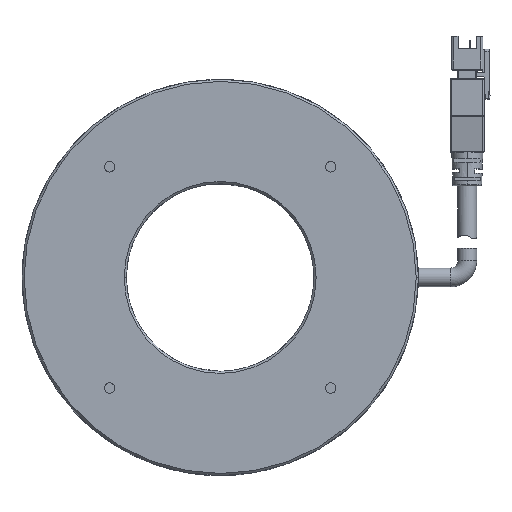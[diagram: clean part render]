
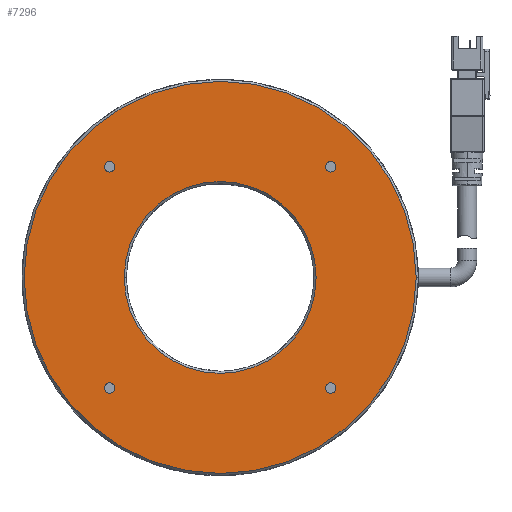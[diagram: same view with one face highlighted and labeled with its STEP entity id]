
A CAD part, top view. The second image highlights one B-rep face of the part: STEP entity #7296.
In plain terms, the highlighted planar face has unit normal (0, 0, 1).
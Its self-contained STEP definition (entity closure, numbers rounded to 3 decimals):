
#1053=CARTESIAN_POINT('',(-26.517,26.517,1.5));
#1054=DIRECTION('',(0.,0.,-1.));
#1055=DIRECTION('',(1.,0.,0.));
#1056=AXIS2_PLACEMENT_3D('',#1053,#1054,#1055);
#1058=CARTESIAN_POINT('',(-26.517,26.517,1.5));
#1059=DIRECTION('',(0.,0.,-1.));
#1060=DIRECTION('',(-1.,0.,0.));
#1061=AXIS2_PLACEMENT_3D('',#1058,#1059,#1060);
#1063=CARTESIAN_POINT('',(26.517,26.517,1.5));
#1064=DIRECTION('',(0.,0.,-1.));
#1065=DIRECTION('',(1.,0.,0.));
#1066=AXIS2_PLACEMENT_3D('',#1063,#1064,#1065);
#1068=CARTESIAN_POINT('',(26.517,26.517,1.5));
#1069=DIRECTION('',(0.,0.,-1.));
#1070=DIRECTION('',(-1.,0.,0.));
#1071=AXIS2_PLACEMENT_3D('',#1068,#1069,#1070);
#1073=CARTESIAN_POINT('',(-26.517,-26.517,1.5));
#1074=DIRECTION('',(0.,0.,-1.));
#1075=DIRECTION('',(1.,0.,0.));
#1076=AXIS2_PLACEMENT_3D('',#1073,#1074,#1075);
#1078=CARTESIAN_POINT('',(-26.517,-26.517,1.5));
#1079=DIRECTION('',(0.,0.,-1.));
#1080=DIRECTION('',(-1.,0.,0.));
#1081=AXIS2_PLACEMENT_3D('',#1078,#1079,#1080);
#1083=CARTESIAN_POINT('',(26.517,-26.517,1.5));
#1084=DIRECTION('',(0.,0.,-1.));
#1085=DIRECTION('',(1.,0.,0.));
#1086=AXIS2_PLACEMENT_3D('',#1083,#1084,#1085);
#1088=CARTESIAN_POINT('',(26.517,-26.517,1.5));
#1089=DIRECTION('',(0.,0.,-1.));
#1090=DIRECTION('',(-1.,0.,0.));
#1091=AXIS2_PLACEMENT_3D('',#1088,#1089,#1090);
#1093=CARTESIAN_POINT('',(0.,0.,1.5));
#1094=DIRECTION('',(0.,0.,1.));
#1095=DIRECTION('',(1.,0.,0.));
#1096=AXIS2_PLACEMENT_3D('',#1093,#1094,#1095);
#1098=CARTESIAN_POINT('',(0.,0.,1.5));
#1099=DIRECTION('',(0.,0.,1.));
#1100=DIRECTION('',(-1.,0.,0.));
#1101=AXIS2_PLACEMENT_3D('',#1098,#1099,#1100);
#1103=CARTESIAN_POINT('',(0.,0.,1.5));
#1104=DIRECTION('',(0.,0.,-1.));
#1105=DIRECTION('',(-1.,0.,0.));
#1106=AXIS2_PLACEMENT_3D('',#1103,#1104,#1105);
#1108=CARTESIAN_POINT('',(0.,0.,1.5));
#1109=DIRECTION('',(0.,0.,-1.));
#1110=DIRECTION('',(1.,0.,0.));
#1111=AXIS2_PLACEMENT_3D('',#1108,#1109,#1110);
#5888=CARTESIAN_POINT('',(-25.267,26.517,1.5));
#5889=CARTESIAN_POINT('',(-27.767,26.517,1.5));
#5890=VERTEX_POINT('',#5888);
#5891=VERTEX_POINT('',#5889);
#5892=CARTESIAN_POINT('',(27.767,26.517,1.5));
#5893=CARTESIAN_POINT('',(25.267,26.517,1.5));
#5894=VERTEX_POINT('',#5892);
#5895=VERTEX_POINT('',#5893);
#5896=CARTESIAN_POINT('',(-25.267,-26.517,1.5));
#5897=CARTESIAN_POINT('',(-27.767,-26.517,1.5));
#5898=VERTEX_POINT('',#5896);
#5899=VERTEX_POINT('',#5897);
#5900=CARTESIAN_POINT('',(27.767,-26.517,1.5));
#5901=CARTESIAN_POINT('',(25.267,-26.517,1.5));
#5902=VERTEX_POINT('',#5900);
#5903=VERTEX_POINT('',#5901);
#5964=CARTESIAN_POINT('',(47.,0.,1.5));
#5965=CARTESIAN_POINT('',(-47.,0.,1.5));
#5966=VERTEX_POINT('',#5964);
#5967=VERTEX_POINT('',#5965);
#5972=CARTESIAN_POINT('',(-23.,0.,1.5));
#5973=CARTESIAN_POINT('',(23.,0.,1.5));
#5974=VERTEX_POINT('',#5972);
#5975=VERTEX_POINT('',#5973);
#7256=CARTESIAN_POINT('',(0.,0.,1.5));
#7257=DIRECTION('',(0.,0.,1.));
#7258=DIRECTION('',(1.,0.,0.));
#7259=AXIS2_PLACEMENT_3D('',#7256,#7257,#7258);
#7260=PLANE('',#7259);
#7261=ORIENTED_EDGE('',*,*,#7246,.F.);
#7263=ORIENTED_EDGE('',*,*,#7262,.F.);
#7264=EDGE_LOOP('',(#7261,#7263));
#7265=FACE_OUTER_BOUND('',#7264,.F.);
#7267=ORIENTED_EDGE('',*,*,#7266,.F.);
#7269=ORIENTED_EDGE('',*,*,#7268,.F.);
#7270=EDGE_LOOP('',(#7267,#7269));
#7271=FACE_BOUND('',#7270,.F.);
#7273=ORIENTED_EDGE('',*,*,#7272,.F.);
#7275=ORIENTED_EDGE('',*,*,#7274,.F.);
#7276=EDGE_LOOP('',(#7273,#7275));
#7277=FACE_BOUND('',#7276,.F.);
#7279=ORIENTED_EDGE('',*,*,#7278,.F.);
#7281=ORIENTED_EDGE('',*,*,#7280,.F.);
#7282=EDGE_LOOP('',(#7279,#7281));
#7283=FACE_BOUND('',#7282,.F.);
#7285=ORIENTED_EDGE('',*,*,#7284,.F.);
#7287=ORIENTED_EDGE('',*,*,#7286,.F.);
#7288=EDGE_LOOP('',(#7285,#7287));
#7289=FACE_BOUND('',#7288,.F.);
#7291=ORIENTED_EDGE('',*,*,#7290,.F.);
#7293=ORIENTED_EDGE('',*,*,#7292,.F.);
#7294=EDGE_LOOP('',(#7291,#7293));
#7295=FACE_BOUND('',#7294,.F.);
#7296=ADVANCED_FACE('',(#7265,#7271,#7277,#7283,#7289,#7295),#7260,.T.);
#1057=CIRCLE('',#1056,1.25);
#1062=CIRCLE('',#1061,1.25);
#1067=CIRCLE('',#1066,1.25);
#1072=CIRCLE('',#1071,1.25);
#1077=CIRCLE('',#1076,1.25);
#1082=CIRCLE('',#1081,1.25);
#1087=CIRCLE('',#1086,1.25);
#1092=CIRCLE('',#1091,1.25);
#1097=CIRCLE('',#1096,47.);
#1102=CIRCLE('',#1101,47.);
#1107=CIRCLE('',#1106,23.);
#1112=CIRCLE('',#1111,23.);
#7246=EDGE_CURVE('',#5966,#5967,#1097,.T.);
#7262=EDGE_CURVE('',#5967,#5966,#1102,.T.);
#7266=EDGE_CURVE('',#5894,#5895,#1067,.T.);
#7268=EDGE_CURVE('',#5895,#5894,#1072,.T.);
#7272=EDGE_CURVE('',#5898,#5899,#1077,.T.);
#7274=EDGE_CURVE('',#5899,#5898,#1082,.T.);
#7278=EDGE_CURVE('',#5902,#5903,#1087,.T.);
#7280=EDGE_CURVE('',#5903,#5902,#1092,.T.);
#7284=EDGE_CURVE('',#5890,#5891,#1057,.T.);
#7286=EDGE_CURVE('',#5891,#5890,#1062,.T.);
#7290=EDGE_CURVE('',#5974,#5975,#1107,.T.);
#7292=EDGE_CURVE('',#5975,#5974,#1112,.T.);
